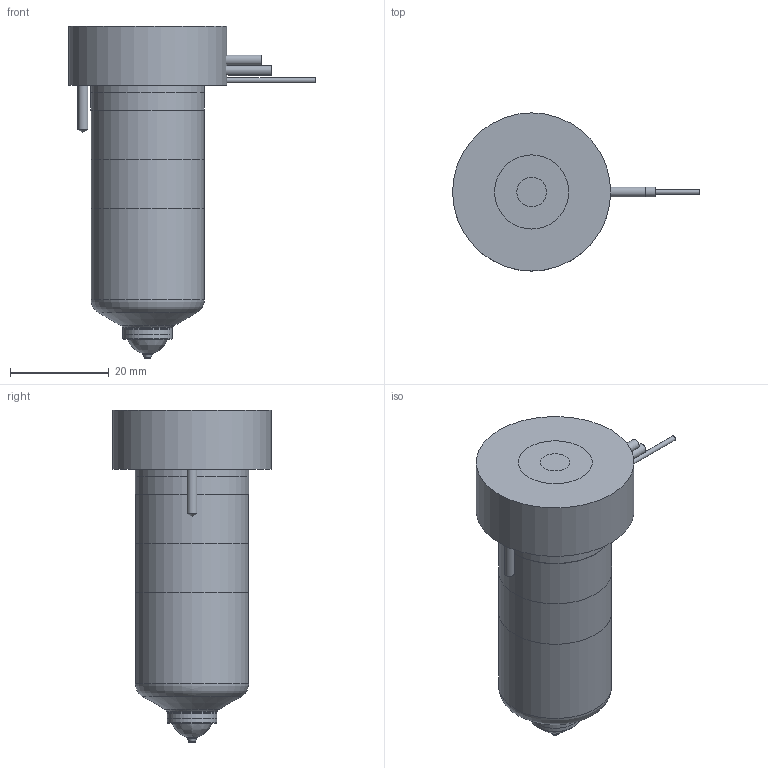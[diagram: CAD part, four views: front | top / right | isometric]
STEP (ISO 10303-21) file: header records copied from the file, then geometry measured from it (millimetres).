
FILE_DESCRIPTION(/* description */ (''),/* implementation_level */ '2;1');
FILE_NAME(/* name */ 'MXOV13055_250C_b',/* time_stamp */ '2007-01-18T09:49:33+13:00',/* author */ (''),/* organization */ (''),/* preprocessor_version */ 'ST-DEVELOPER v9',/* originating_system */ 'UGS - NX 4.0',/* authorisation */ '');
FILE_SCHEMA (('CONFIG_CONTROL_DESIGN'));
Length unit declared in the file: millimetre
Products named in the file (1): MXOV13055_250C_b
Bounding box: 49.95 x 32 x 67.18 mm (x, y, z)
Volume: 53141.1 mm3; surface area: 13895.3 mm2
Topology: 7 solids, 7 shells, 90 faces, 170 edges, 108 vertices
Faces by surface type: plane 37, cylinder 29, cone 13, torus 8, bspline 3
Full cylindrical faces by diameter (mm): 1 x3, 2 x5, 6 x1, 6.4 x1, 6.5 x1, 9.61 x1, 10.01 x2, 12.6 x1, 18.8 x1, 22.9 x2, 23 x2, 32 x1
Entity records: 2168 total; most frequent: CARTESIAN_POINT 462, DIRECTION 366, ORIENTED_EDGE 236, AXIS2_PLACEMENT_3D 170, EDGE_LOOP 146, EDGE_CURVE 118, VERTEX_POINT 99, ADVANCED_FACE 90
